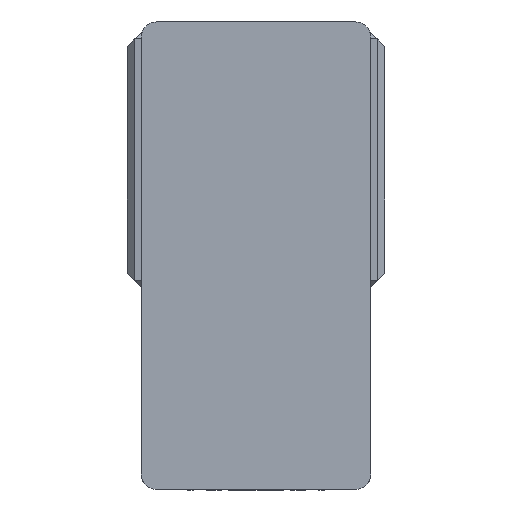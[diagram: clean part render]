
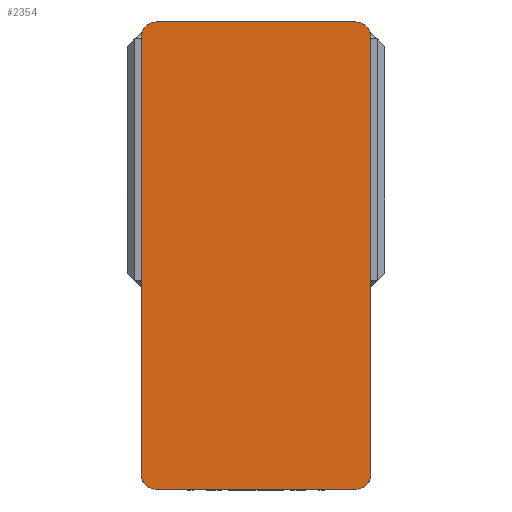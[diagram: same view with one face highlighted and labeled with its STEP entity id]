
A CAD part, left-side view. The second image highlights one B-rep face of the part: STEP entity #2354.
In plain terms, the highlighted planar face has unit normal (-1, 0, 0) as drawn and (0, 0, 1) by its records, which use the part's own axes.
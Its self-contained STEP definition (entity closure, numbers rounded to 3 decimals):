
#75 = VERTEX_POINT ( 'NONE', #6705 ) ;
#221 = VERTEX_POINT ( 'NONE', #3972 ) ;
#226 = DIRECTION ( 'NONE',  ( -1., 0., 0. ) ) ;
#376 = DIRECTION ( 'NONE',  ( 0., 0., 1. ) ) ;
#448 = CARTESIAN_POINT ( 'NONE',  ( 0., 0., 105. ) ) ;
#799 = CARTESIAN_POINT ( 'NONE',  ( 75., 152.5, 105. ) ) ;
#849 = VERTEX_POINT ( 'NONE', #5037 ) ;
#1162 = CARTESIAN_POINT ( 'NONE',  ( 65., -142.5, 105. ) ) ;
#1334 = LINE ( 'NONE', #5584, #10431 ) ;
#1616 = CARTESIAN_POINT ( 'NONE',  ( -75., -152.5, 105. ) ) ;
#1749 = VECTOR ( 'NONE', #6053, 1000. ) ;
#2069 = DIRECTION ( 'NONE',  ( 1., 0., 0. ) ) ;
#2220 = AXIS2_PLACEMENT_3D ( 'NONE', #448, #2265, #8455 ) ;
#2265 = DIRECTION ( 'NONE',  ( 0., 0., 1. ) ) ;
#2354 = ADVANCED_FACE ( 'NONE', ( #9103 ), #10994, .T. ) ;
#3106 = CARTESIAN_POINT ( 'NONE',  ( 65., -152.5, 105. ) ) ;
#3448 = EDGE_LOOP ( 'NONE', ( #8174, #3734, #6943, #5400, #4146, #7369, #3480, #9527 ) ) ;
#3480 = ORIENTED_EDGE ( 'NONE', *, *, #4977, .T. ) ;
#3734 = ORIENTED_EDGE ( 'NONE', *, *, #5412, .T. ) ;
#3972 = CARTESIAN_POINT ( 'NONE',  ( -75., -142.5, 105. ) ) ;
#3979 = VECTOR ( 'NONE', #9818, 1000. ) ;
#4040 = VERTEX_POINT ( 'NONE', #7592 ) ;
#4146 = ORIENTED_EDGE ( 'NONE', *, *, #4563, .T. ) ;
#4244 = EDGE_CURVE ( 'NONE', #7108, #4040, #9634, .T. ) ;
#4563 = EDGE_CURVE ( 'NONE', #75, #849, #1334, .T. ) ;
#4668 = VERTEX_POINT ( 'NONE', #3106 ) ;
#4977 = EDGE_CURVE ( 'NONE', #5447, #221, #11227, .T. ) ;
#5037 = CARTESIAN_POINT ( 'NONE',  ( -65., 152.5, 105. ) ) ;
#5133 = DIRECTION ( 'NONE',  ( 0., 0., 1. ) ) ;
#5209 = EDGE_CURVE ( 'NONE', #10312, #4668, #8542, .T. ) ;
#5291 = CARTESIAN_POINT ( 'NONE',  ( -65., -142.5, 105. ) ) ;
#5400 = ORIENTED_EDGE ( 'NONE', *, *, #5453, .T. ) ;
#5412 = EDGE_CURVE ( 'NONE', #4668, #7108, #10677, .T. ) ;
#5447 = VERTEX_POINT ( 'NONE', #9206 ) ;
#5453 = EDGE_CURVE ( 'NONE', #4040, #75, #8138, .T. ) ;
#5503 = CARTESIAN_POINT ( 'NONE',  ( -65., -152.5, 105. ) ) ;
#5584 = CARTESIAN_POINT ( 'NONE',  ( -75., 152.5, 105. ) ) ;
#5586 = EDGE_CURVE ( 'NONE', #849, #5447, #9337, .T. ) ;
#5724 = CARTESIAN_POINT ( 'NONE',  ( 65., 142.5, 105. ) ) ;
#5733 = EDGE_CURVE ( 'NONE', #221, #10312, #11076, .T. ) ;
#5911 = AXIS2_PLACEMENT_3D ( 'NONE', #5291, #11367, #6184 ) ;
#6053 = DIRECTION ( 'NONE',  ( 1., 0., 0. ) ) ;
#6184 = DIRECTION ( 'NONE',  ( 1., 0., 0. ) ) ;
#6283 = CARTESIAN_POINT ( 'NONE',  ( -75., 152.5, 105. ) ) ;
#6618 = DIRECTION ( 'NONE',  ( 1., 0., 0. ) ) ;
#6705 = CARTESIAN_POINT ( 'NONE',  ( 65., 152.5, 105. ) ) ;
#6943 = ORIENTED_EDGE ( 'NONE', *, *, #4244, .T. ) ;
#7035 = DIRECTION ( 'NONE',  ( 0., 1., 0. ) ) ;
#7108 = VERTEX_POINT ( 'NONE', #7820 ) ;
#7369 = ORIENTED_EDGE ( 'NONE', *, *, #5586, .T. ) ;
#7416 = DIRECTION ( 'NONE',  ( 0., 0., 1. ) ) ;
#7592 = CARTESIAN_POINT ( 'NONE',  ( 75., 142.5, 105. ) ) ;
#7820 = CARTESIAN_POINT ( 'NONE',  ( 75., -142.5, 105. ) ) ;
#8138 = CIRCLE ( 'NONE', #8814, 10. ) ;
#8174 = ORIENTED_EDGE ( 'NONE', *, *, #5209, .T. ) ;
#8455 = DIRECTION ( 'NONE',  ( 1., 0., 0. ) ) ;
#8542 = LINE ( 'NONE', #1616, #1749 ) ;
#8573 = AXIS2_PLACEMENT_3D ( 'NONE', #10380, #5133, #11224 ) ;
#8814 = AXIS2_PLACEMENT_3D ( 'NONE', #5724, #376, #6618 ) ;
#9103 = FACE_OUTER_BOUND ( 'NONE', #3448, .T. ) ;
#9149 = AXIS2_PLACEMENT_3D ( 'NONE', #1162, #7416, #2069 ) ;
#9206 = CARTESIAN_POINT ( 'NONE',  ( -75., 142.5, 105. ) ) ;
#9337 = CIRCLE ( 'NONE', #8573, 10. ) ;
#9527 = ORIENTED_EDGE ( 'NONE', *, *, #5733, .T. ) ;
#9634 = LINE ( 'NONE', #799, #9899 ) ;
#9818 = DIRECTION ( 'NONE',  ( 0., -1., 0. ) ) ;
#9899 = VECTOR ( 'NONE', #7035, 1000. ) ;
#10312 = VERTEX_POINT ( 'NONE', #5503 ) ;
#10380 = CARTESIAN_POINT ( 'NONE',  ( -65., 142.5, 105. ) ) ;
#10431 = VECTOR ( 'NONE', #226, 1000. ) ;
#10677 = CIRCLE ( 'NONE', #9149, 10. ) ;
#10994 = PLANE ( 'NONE',  #2220 ) ;
#11076 = CIRCLE ( 'NONE', #5911, 10. ) ;
#11224 = DIRECTION ( 'NONE',  ( 1., 0., 0. ) ) ;
#11227 = LINE ( 'NONE', #6283, #3979 ) ;
#11367 = DIRECTION ( 'NONE',  ( 0., 0., 1. ) ) ;
